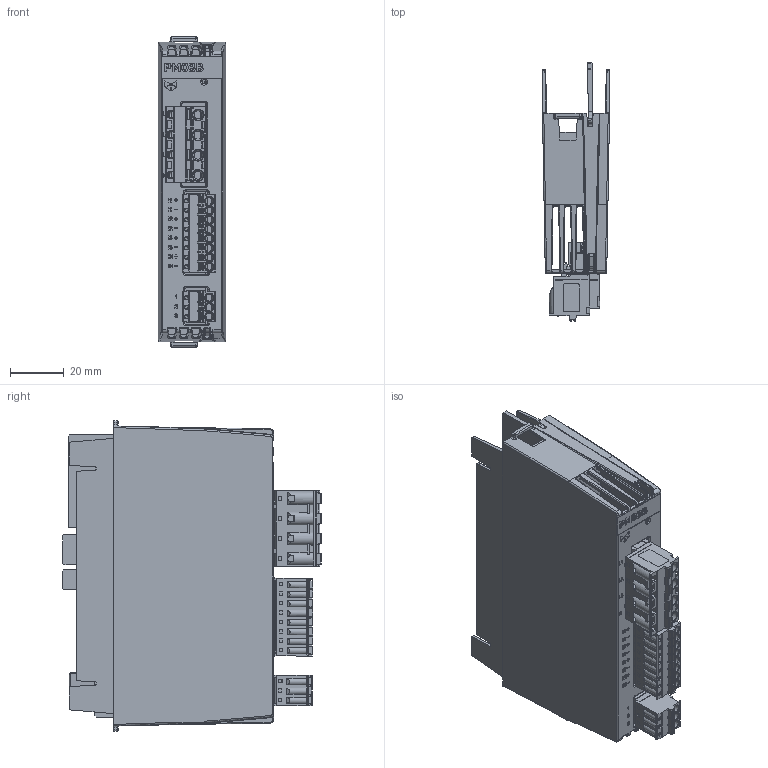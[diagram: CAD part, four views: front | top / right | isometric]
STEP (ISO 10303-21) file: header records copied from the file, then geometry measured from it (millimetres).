
FILE_DESCRIPTION(/* description */ (''),/* implementation_level */ '2;1');
FILE_NAME(/* name */ 'C:\Users\Public\Documents\Autodesk\Inventor 2023\PM03B_Simplified.stp',/* time_stamp */ '2024-10-17T19:39:35+02:00',/* author */ ('shoma'),/* organization */ (''),/* preprocessor_version */ 'ST-DEVELOPER v19',/* originating_system */ 'Autodesk Inventor 2023',/* authorisation */ '');
FILE_SCHEMA (('AUTOMOTIVE_DESIGN { 1 0 10303 214 3 1 1 }'));
Products named in the file (1): PM03B_Simplified
Bounding box: 24.95 x 96.19 x 115.5 mm (x, y, z)
Volume: 113438.6 mm3; surface area: 62563.7 mm2
Topology: 1 solids, 34 shells, 5372 faces, 14449 edges, 9246 vertices
Faces by surface type: plane 3928, cylinder 1009, bspline 263, cone 123, torus 26, sphere 23
Full cylindrical faces by diameter (mm): 0.296 x2, 0.434 x1, 0.457 x2, 1.17 x11, 1.25 x11, 1.3 x11, 1.4 x4, 1.5 x4, 1.6 x7, 2.5 x1, 2.8 x3, 3 x4, 3.1 x11, 4 x4
Entity records: 178184 total; most frequent: CARTESIAN_POINT 37602, ORIENTED_EDGE 28804, DIRECTION 27061, EDGE_CURVE 14402, LINE 11161, VECTOR 11161, VERTEX_POINT 9242, AXIS2_PLACEMENT_3D 7950
